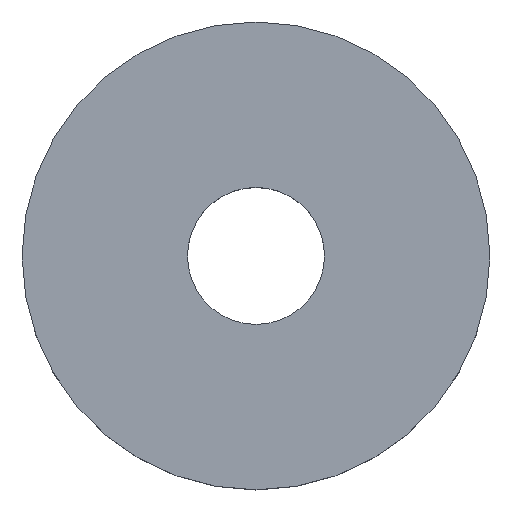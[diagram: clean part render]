
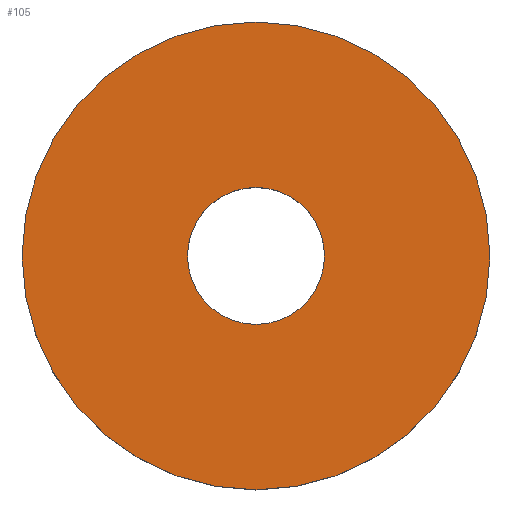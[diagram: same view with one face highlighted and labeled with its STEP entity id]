
A CAD part, top view. The second image highlights one B-rep face of the part: STEP entity #105.
In plain terms, the highlighted planar face has unit normal (0, 0, 1).
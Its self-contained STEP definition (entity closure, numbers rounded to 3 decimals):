
#21 = EDGE_CURVE('',#22,#22,#24,.T.);
#22 = VERTEX_POINT('',#23);
#23 = CARTESIAN_POINT('',(28.,0.,-34.));
#24 = SURFACE_CURVE('',#25,(#30,#42),.PCURVE_S1.);
#25 = CIRCLE('',#26,28.);
#26 = AXIS2_PLACEMENT_3D('',#27,#28,#29);
#27 = CARTESIAN_POINT('',(0.,0.,-34.));
#28 = DIRECTION('',(0.,0.,1.));
#29 = DIRECTION('',(1.,0.,-0.));
#30 = PCURVE('',#31,#36);
#31 = CYLINDRICAL_SURFACE('',#32,28.);
#32 = AXIS2_PLACEMENT_3D('',#33,#34,#35);
#33 = CARTESIAN_POINT('',(0.,0.,-44.));
#34 = DIRECTION('',(0.,0.,1.));
#35 = DIRECTION('',(1.,0.,-0.));
#36 = DEFINITIONAL_REPRESENTATION('',(#37),#41);
#37 = LINE('',#38,#39);
#38 = CARTESIAN_POINT('',(0.,10.));
#39 = VECTOR('',#40,1.);
#40 = DIRECTION('',(1.,0.));
#41 = ( GEOMETRIC_REPRESENTATION_CONTEXT(2) 
PARAMETRIC_REPRESENTATION_CONTEXT() REPRESENTATION_CONTEXT('2D SPACE',''
  ) );
#42 = PCURVE('',#43,#48);
#43 = PLANE('',#44);
#44 = AXIS2_PLACEMENT_3D('',#45,#46,#47);
#45 = CARTESIAN_POINT('',(0.,0.,-34.));
#46 = DIRECTION('',(0.,0.,1.));
#47 = DIRECTION('',(1.,0.,-0.));
#48 = DEFINITIONAL_REPRESENTATION('',(#49),#53);
#49 = CIRCLE('',#50,28.);
#50 = AXIS2_PLACEMENT_2D('',#51,#52);
#51 = CARTESIAN_POINT('',(0.,0.));
#52 = DIRECTION('',(1.,0.));
#53 = ( GEOMETRIC_REPRESENTATION_CONTEXT(2) 
PARAMETRIC_REPRESENTATION_CONTEXT() REPRESENTATION_CONTEXT('2D SPACE',''
  ) );
#105 = ADVANCED_FACE('',(#106,#109),#43,.T.);
#106 = FACE_BOUND('',#107,.T.);
#107 = EDGE_LOOP('',(#108));
#108 = ORIENTED_EDGE('',*,*,#21,.T.);
#109 = FACE_BOUND('',#110,.T.);
#110 = EDGE_LOOP('',(#111));
#111 = ORIENTED_EDGE('',*,*,#112,.F.);
#112 = EDGE_CURVE('',#113,#113,#115,.T.);
#113 = VERTEX_POINT('',#114);
#114 = CARTESIAN_POINT('',(8.2,0.,-34.));
#115 = SURFACE_CURVE('',#116,(#121,#128),.PCURVE_S1.);
#116 = CIRCLE('',#117,8.2);
#117 = AXIS2_PLACEMENT_3D('',#118,#119,#120);
#118 = CARTESIAN_POINT('',(0.,0.,-34.));
#119 = DIRECTION('',(0.,0.,1.));
#120 = DIRECTION('',(1.,0.,-0.));
#121 = PCURVE('',#43,#122);
#122 = DEFINITIONAL_REPRESENTATION('',(#123),#127);
#123 = CIRCLE('',#124,8.2);
#124 = AXIS2_PLACEMENT_2D('',#125,#126);
#125 = CARTESIAN_POINT('',(0.,0.));
#126 = DIRECTION('',(1.,0.));
#127 = ( GEOMETRIC_REPRESENTATION_CONTEXT(2) 
PARAMETRIC_REPRESENTATION_CONTEXT() REPRESENTATION_CONTEXT('2D SPACE',''
  ) );
#128 = PCURVE('',#129,#134);
#129 = CYLINDRICAL_SURFACE('',#130,8.2);
#130 = AXIS2_PLACEMENT_3D('',#131,#132,#133);
#131 = CARTESIAN_POINT('',(0.,0.,-44.));
#132 = DIRECTION('',(0.,0.,1.));
#133 = DIRECTION('',(1.,0.,-0.));
#134 = DEFINITIONAL_REPRESENTATION('',(#135),#139);
#135 = LINE('',#136,#137);
#136 = CARTESIAN_POINT('',(0.,10.));
#137 = VECTOR('',#138,1.);
#138 = DIRECTION('',(1.,0.));
#139 = ( GEOMETRIC_REPRESENTATION_CONTEXT(2) 
PARAMETRIC_REPRESENTATION_CONTEXT() REPRESENTATION_CONTEXT('2D SPACE',''
  ) );
